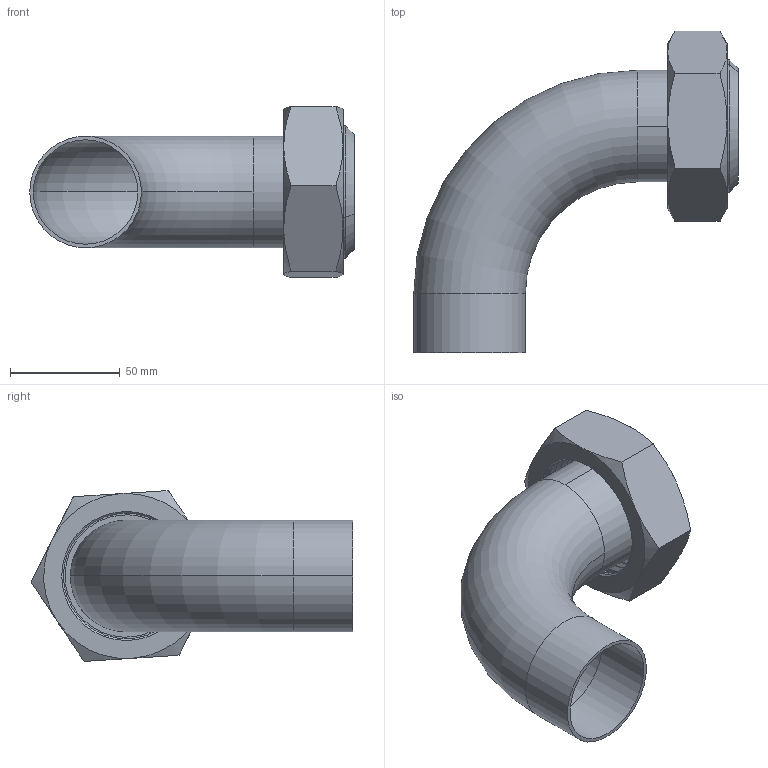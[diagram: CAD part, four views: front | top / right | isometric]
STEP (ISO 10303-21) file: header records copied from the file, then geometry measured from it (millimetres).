
FILE_DESCRIPTION (( 'STEP AP214' ), '1' );
FILE_NAME ('E2F2.0 REV1.STEP', '2025-06-13T16:09:25', ( '' ), ( '' ), 'SwSTEP 2.0', 'SolidWorks 2022', '' );
FILE_SCHEMA (( 'AUTOMOTIVE_DESIGN' ));
Length unit declared in the file: inch
Products named in the file (4): E2S2.0; 14PR2.0 REV1; 13H2.0; E2F2.0 REV1
Assembly tree (3 placements, depth 2):
  E2F2.0 REV1
    E2S2.0
    13H2.0
    14PR2.0 REV1
Bounding box: 147.68 x 146.46 x 77.79 mm (x, y, z)
Volume: 101314.5 mm3; surface area: 82374.7 mm2
Topology: 3 solids, 3 shells, 88 faces, 215 edges, 136 vertices
Faces by surface type: cylinder 31, plane 29, cone 20, torus 4, bspline 4
Entity records: 5969 total; most frequent: CARTESIAN_POINT 3806, ORIENTED_EDGE 430, DIRECTION 416, EDGE_CURVE 215, AXIS2_PLACEMENT_3D 172, VERTEX_POINT 136, EDGE_LOOP 97, ADVANCED_FACE 88
